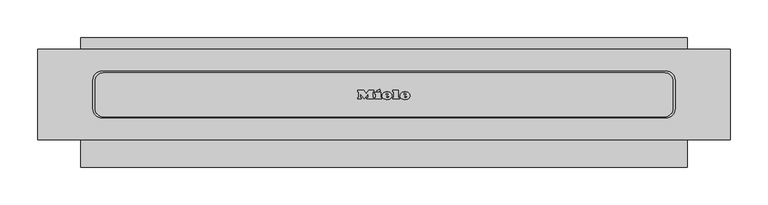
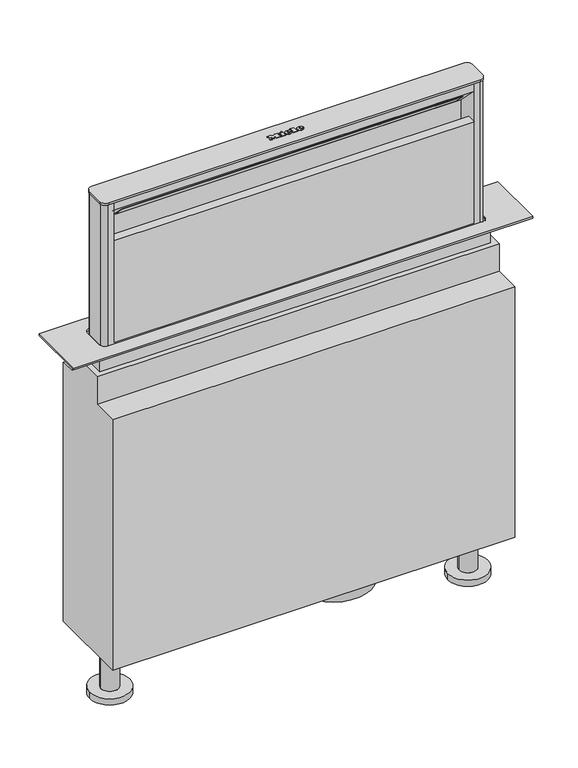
"""IFC4 building model written with IfcOpenShell, lengths in millimetres: proxy geometry, 12440710_CN_DAD4841C_MASW : 28D4841M_CN_12440710_DAD4841C_MASW."""

from ifc_helpers import new_model, si_unit, point, frame, frame_2d, origin, origin_with_axes, place, context, project, spatial, polyline, circle_curve, ellipse_curve, trimmed, segment, composite_curve, outline, extrude, faceted_brep, source, transform, mapped, element, save
from ifc_brep_helpers import plane_surface, cylinder_surface, revolved_surface, extruded_surface, advanced_brep


def specialty_equipment_e5a26d60(model_context):
    return source(origin(), model_context, "Body", "SolidModel", [
        advanced_brep(
        [(26.788, -78.2201445, 305.0), (26.788, -77.0687445, 305.0), (34.4146, -77.0687445, 305.0), (21.145, -77.0687445, 305.0), (24.28, -80.9219445, 305.0), (34.2208, -78.2201445, 305.0), (30.778, -78.2201445, 305.0), (28.0648, -79.4969445, 305.0), (26.788, -75.6095445, 305.0), (26.788, -74.3669445, 305.0), (28.7374, -74.3669445, 305.0), (28.7374, -75.6095445, 305.0), (26.788, -78.2201445, 304.0), (28.0648, -79.4969445, 304.0), (30.778, -78.2201445, 304.0), (34.2208, -78.2201445, 304.0), (24.28, -80.9219445, 304.0), (21.145, -77.0687445, 304.0), (34.4146, -77.0687445, 304.0), (26.788, -77.0687445, 304.0), (26.788, -75.6095445, 304.0), (28.7374, -75.6095445, 304.0), (28.7374, -74.3669445, 304.0), (26.788, -74.3669445, 304.0)],
        [
            (0, 1),
            (1, 2),
            (2, 3, ellipse_curve(frame((27.7798, -77.0687445, 305.0), z_axis=(0.0, 0.0, 1.0), x_axis=(-1.0, 0.0, 0.0)), 6.6348, 5.4834)),
            (3, 4, circle_curve(frame((25.5568622, -76.6811445, 305.0), z_axis=(0.0, 0.0, 1.0), x_axis=(0.0, -1.0, 0.0)), 4.4288556)),
            (4, 5, circle_curve(frame((27.6469808, -73.6715445, 305.0), z_axis=(0.0, 0.0, 1.0), x_axis=(0.0, -1.0, 0.0)), 7.9940516)),
            (5, 6),
            (6, 7, circle_curve(frame((28.6220588, -77.1599445, 305.0), z_axis=(0.0, 0.0, -1.0), x_axis=(0.0, -1.0, 0.0)), 2.4025208)),
            (7, 0, circle_curve(frame((28.0648, -78.2201445, 305.0), z_axis=(0.0, 0.0, -1.0), x_axis=(0.0, -1.0, 0.0)), 1.2768)),
            (8, 9),
            (9, 10, circle_curve(frame((27.7627, -74.3669445, 305.0), z_axis=(0.0, 0.0, -1.0), x_axis=(0.0, -1.0, 0.0)), 0.9747)),
            (10, 11),
            (11, 8),
            (12, 13, circle_curve(frame((28.0648, -78.2201445, 304.0), z_axis=(0.0, 0.0, 1.0), x_axis=(0.0, -1.0, 0.0)), 1.2768)),
            (13, 14, circle_curve(frame((28.6220588, -77.1599445, 304.0), z_axis=(0.0, 0.0, 1.0), x_axis=(0.0, -1.0, 0.0)), 2.4025208)),
            (14, 15),
            (15, 16, circle_curve(frame((27.6469808, -73.6715445, 304.0), z_axis=(0.0, 0.0, -1.0), x_axis=(0.0, -1.0, 0.0)), 7.9940516)),
            (16, 17, circle_curve(frame((25.5568622, -76.6811445, 304.0), z_axis=(0.0, 0.0, -1.0), x_axis=(0.0, -1.0, 0.0)), 4.4288556)),
            (17, 18, ellipse_curve(frame((27.7798, -77.0687445, 304.0), z_axis=(0.0, 0.0, -1.0), x_axis=(-1.0, 0.0, 0.0)), 6.6348, 5.4834)),
            (18, 19),
            (19, 12),
            (20, 21),
            (21, 22),
            (22, 23, circle_curve(frame((27.7627, -74.3669445, 304.0), z_axis=(0.0, 0.0, 1.0), x_axis=(0.0, -1.0, 0.0)), 0.9747)),
            (23, 20),
            (0, 12),
            (19, 1),
            (18, 2),
            (5, 15),
            (14, 6),
            (17, 3),
            (13, 7),
            (16, 4),
            (8, 20),
            (23, 9),
            (22, 10),
            (21, 11),
        ],
        [
            plane_surface(frame((26.788, -77.0687445, 305.0), z_axis=(0.0, 0.0, 1.0), x_axis=(0.0, 1.0, 0.0))),
            plane_surface(frame((26.788, -77.0687445, 304.0), z_axis=(0.0, 0.0, -1.0), x_axis=(0.0, -1.0, 0.0))),
            plane_surface(frame((26.788, -78.2201445, 305.0), z_axis=(1.0, 0.0, 0.0), x_axis=(0.0, 0.0, -1.0))),
            plane_surface(frame((26.788, -77.0687445, 305.0), z_axis=(0.0, -1.0, 0.0), x_axis=(0.0, 0.0, -1.0))),
            plane_surface(frame((34.2208, -78.2201445, 305.0), z_axis=(0.0, 1.0, 0.0), x_axis=(0.0, 0.0, -1.0))),
            extruded_surface(trimmed(ellipse_curve(frame((27.7798, -77.0687445, 303.0), z_axis=(0.0, 0.0, 1.0), x_axis=(-1.0, 0.0, 0.0)), 6.6348, 5.4834), [point((34.4146, -77.0687445, 303.0))], [point((21.145, -77.0687445, 303.0))], True, "CARTESIAN"), (0.0, 0.0, 1.0), 1.0),
            revolved_surface(polyline([(28.6220588, -79.5624653, 304.0), (28.6220588, -79.5624653, 305.0)]), (28.6220588, -77.1599445, 304.0), (0.0, 0.0, -1.0)),
            revolved_surface(polyline([(28.0648, -79.4969445, 304.0), (28.0648, -79.4969445, 305.0)]), (28.0648, -78.2201445, 304.0), (0.0, 0.0, -1.0)),
            cylinder_surface(frame((25.5568622, -76.6811445, 304.0), z_axis=(0.0, 0.0, 1.0), x_axis=(0.0, -1.0, 0.0)), 4.4288556),
            cylinder_surface(frame((27.6469808, -73.6715445, 304.0), z_axis=(0.0, 0.0, 1.0), x_axis=(0.0, -1.0, 0.0)), 7.9940516),
            plane_surface(frame((26.788, -75.6095445, 305.0), z_axis=(1.0, 0.0, 0.0), x_axis=(0.0, 0.0, -1.0))),
            revolved_surface(polyline([(27.7627, -75.3416445, 304.0), (27.7627, -75.3416445, 305.0)]), (27.7627, -74.3669445, 304.0), (0.0, 0.0, -1.0)),
            plane_surface(frame((28.7374, -74.3669445, 305.0), z_axis=(-1.0, 0.0, 0.0), x_axis=(0.0, 0.0, -1.0))),
            plane_surface(frame((28.7374, -75.6095445, 305.0), z_axis=(0.0, 1.0, 0.0), x_axis=(0.0, 0.0, -1.0))),
        ],
        [
            (0, [[1, 2, 3, 4, 5, 6, 7, 8], [9, 10, 11, 12]]),
            (1, [[13, 14, 15, 16, 17, 18, 19, 20], [21, 22, 23, 24]]),
            (2, [[-1, 25, -20, 26]]),
            (3, [[-2, -26, -19, 27]]),
            (4, [[-6, 28, -15, 29]]),
            (5, [[-3, -27, -18, 30]]),
            (6, [[-7, -29, -14, 31]]),
            (7, [[-8, -31, -13, -25]]),
            (8, [[-4, -30, -17, 32]]),
            (9, [[-5, -32, -16, -28]]),
            (10, [[-9, 33, -24, 34]]),
            (11, [[-10, -34, -23, 35]]),
            (12, [[-11, -35, -22, 36]]),
            (13, [[-12, -36, -21, -33]]),
        ],
    ),
        advanced_brep(
        [(2.9962, -78.2201445, 305.0), (2.9962, -77.0687445, 305.0), (10.6228, -77.0687445, 305.0), (-2.6468, -77.0687445, 305.0), (0.4882, -80.9219445, 305.0), (10.429, -78.2201445, 305.0), (6.9862, -78.2201445, 305.0), (4.273, -79.4969445, 305.0), (2.9962, -75.6095445, 305.0), (2.9962, -74.3669445, 305.0), (4.9456, -74.3669445, 305.0), (4.9456, -75.6095445, 305.0), (2.9962, -78.2201445, 304.0), (4.273, -79.4969445, 304.0), (6.9862, -78.2201445, 304.0), (10.429, -78.2201445, 304.0), (0.4882, -80.9219445, 304.0), (-2.6468, -77.0687445, 304.0), (10.6228, -77.0687445, 304.0), (2.9962, -77.0687445, 304.0), (2.9962, -75.6095445, 304.0), (4.9456, -75.6095445, 304.0), (4.9456, -74.3669445, 304.0), (2.9962, -74.3669445, 304.0)],
        [
            (0, 1),
            (1, 2),
            (2, 3, ellipse_curve(frame((3.988, -77.0687445, 305.0), z_axis=(0.0, 0.0, 1.0), x_axis=(-1.0, 0.0, 0.0)), 6.6348, 5.4834)),
            (3, 4, circle_curve(frame((1.7650622, -76.6811445, 305.0), z_axis=(0.0, 0.0, 1.0), x_axis=(0.0, -1.0, 0.0)), 4.4288556)),
            (4, 5, circle_curve(frame((3.8551808, -73.6715445, 305.0), z_axis=(0.0, 0.0, 1.0), x_axis=(0.0, -1.0, 0.0)), 7.9940516)),
            (5, 6),
            (6, 7, circle_curve(frame((4.8302588, -77.1599445, 305.0), z_axis=(0.0, 0.0, -1.0), x_axis=(0.0, -1.0, 0.0)), 2.4025208)),
            (7, 0, circle_curve(frame((4.273, -78.2201445, 305.0), z_axis=(0.0, 0.0, -1.0), x_axis=(0.0, -1.0, 0.0)), 1.2768)),
            (8, 9),
            (9, 10, circle_curve(frame((3.9709, -74.3669445, 305.0), z_axis=(0.0, 0.0, -1.0), x_axis=(0.0, -1.0, 0.0)), 0.9747)),
            (10, 11),
            (11, 8),
            (12, 13, circle_curve(frame((4.273, -78.2201445, 304.0), z_axis=(0.0, 0.0, 1.0), x_axis=(0.0, -1.0, 0.0)), 1.2768)),
            (13, 14, circle_curve(frame((4.8302588, -77.1599445, 304.0), z_axis=(0.0, 0.0, 1.0), x_axis=(0.0, -1.0, 0.0)), 2.4025208)),
            (14, 15),
            (15, 16, circle_curve(frame((3.8551808, -73.6715445, 304.0), z_axis=(0.0, 0.0, -1.0), x_axis=(0.0, -1.0, 0.0)), 7.9940516)),
            (16, 17, circle_curve(frame((1.7650622, -76.6811445, 304.0), z_axis=(0.0, 0.0, -1.0), x_axis=(0.0, -1.0, 0.0)), 4.4288556)),
            (17, 18, ellipse_curve(frame((3.988, -77.0687445, 304.0), z_axis=(0.0, 0.0, -1.0), x_axis=(-1.0, 0.0, 0.0)), 6.6348, 5.4834)),
            (18, 19),
            (19, 12),
            (20, 21),
            (21, 22),
            (22, 23, circle_curve(frame((3.9709, -74.3669445, 304.0), z_axis=(0.0, 0.0, 1.0), x_axis=(0.0, -1.0, 0.0)), 0.9747)),
            (23, 20),
            (0, 12),
            (19, 1),
            (18, 2),
            (5, 15),
            (14, 6),
            (17, 3),
            (13, 7),
            (16, 4),
            (8, 20),
            (23, 9),
            (22, 10),
            (21, 11),
        ],
        [
            plane_surface(frame((2.9962, -77.0687445, 305.0), z_axis=(0.0, 0.0, 1.0), x_axis=(0.0, 1.0, 0.0))),
            plane_surface(frame((2.9962, -77.0687445, 304.0), z_axis=(0.0, 0.0, -1.0), x_axis=(0.0, -1.0, 0.0))),
            plane_surface(frame((2.9962, -78.2201445, 305.0), z_axis=(1.0, 0.0, 0.0), x_axis=(0.0, 0.0, -1.0))),
            plane_surface(frame((2.9962, -77.0687445, 305.0), z_axis=(0.0, -1.0, 0.0), x_axis=(0.0, 0.0, -1.0))),
            plane_surface(frame((10.429, -78.2201445, 305.0), z_axis=(0.0, 1.0, 0.0), x_axis=(0.0, 0.0, -1.0))),
            extruded_surface(trimmed(ellipse_curve(frame((3.988, -77.0687445, 303.0), z_axis=(0.0, 0.0, 1.0), x_axis=(-1.0, 0.0, 0.0)), 6.6348, 5.4834), [point((10.6228, -77.0687445, 303.0))], [point((-2.6468, -77.0687445, 303.0))], True, "CARTESIAN"), (0.0, 0.0, 1.0), 1.0),
            revolved_surface(polyline([(4.8302588, -79.5624653, 304.0), (4.8302588, -79.5624653, 305.0)]), (4.8302588, -77.1599445, 304.0), (0.0, 0.0, -1.0)),
            revolved_surface(polyline([(4.273, -79.4969445, 304.0), (4.273, -79.4969445, 305.0)]), (4.273, -78.2201445, 304.0), (0.0, 0.0, -1.0)),
            cylinder_surface(frame((1.7650622, -76.6811445, 304.0), z_axis=(0.0, 0.0, 1.0), x_axis=(0.0, -1.0, 0.0)), 4.4288556),
            cylinder_surface(frame((3.8551808, -73.6715445, 304.0), z_axis=(0.0, 0.0, 1.0), x_axis=(0.0, -1.0, 0.0)), 7.9940516),
            plane_surface(frame((2.9962, -75.6095445, 305.0), z_axis=(1.0, 0.0, 0.0), x_axis=(0.0, 0.0, -1.0))),
            revolved_surface(polyline([(3.9709, -75.3416445, 304.0), (3.9709, -75.3416445, 305.0)]), (3.9709, -74.3669445, 304.0), (0.0, 0.0, -1.0)),
            plane_surface(frame((4.9456, -74.3669445, 305.0), z_axis=(-1.0, 0.0, 0.0), x_axis=(0.0, 0.0, -1.0))),
            plane_surface(frame((4.9456, -75.6095445, 305.0), z_axis=(0.0, 1.0, 0.0), x_axis=(0.0, 0.0, -1.0))),
        ],
        [
            (0, [[1, 2, 3, 4, 5, 6, 7, 8], [9, 10, 11, 12]]),
            (1, [[13, 14, 15, 16, 17, 18, 19, 20], [21, 22, 23, 24]]),
            (2, [[-1, 25, -20, 26]]),
            (3, [[-2, -26, -19, 27]]),
            (4, [[-6, 28, -15, 29]]),
            (5, [[-3, -27, -18, 30]]),
            (6, [[-7, -29, -14, 31]]),
            (7, [[-8, -31, -13, -25]]),
            (8, [[-4, -30, -17, 32]]),
            (9, [[-5, -32, -16, -28]]),
            (10, [[-9, 33, -24, 34]]),
            (11, [[-10, -34, -23, 35]]),
            (12, [[-11, -35, -22, 36]]),
            (13, [[-12, -36, -21, -33]]),
        ],
    ),
        extrude(outline(polyline([(-9.464, -70.1945445), (-5.588, -68.3933445), (-4.733, -70.2401445), (-8.5976, -72.0413445), (-9.464, -70.1945445)])), frame((0.0, 0.0, 304.0), z_axis=(0.0, 0.0, 1.0), x_axis=(1.0, 0.0, 0.0)), (0.0, 0.0, 1.0), 1.0),
        extrude(outline(polyline([(-12.2798, -72.2921445), (-4.6076, -72.2921445), (-4.6076, -79.0067445), (-3.2852, -79.0067445), (-3.2852, -80.9219445), (-12.2798, -80.9219445), (-12.2798, -79.0067445), (-10.9232, -79.0067445), (-10.9232, -74.3327445), (-12.2798, -74.3327445), (-12.2798, -72.2921445)])), frame((0.0, 0.0, 304.0), z_axis=(0.0, 0.0, 1.0), x_axis=(1.0, 0.0, 0.0)), (0.0, 0.0, 1.0), 1.0),
        extrude(outline(polyline([(11.2612, -71.3801445), (11.2612, -69.5219445), (19.1044, -69.5219445), (19.1044, -79.0067445), (20.5066, -79.0067445), (20.5066, -80.9219445), (11.2612, -80.9219445), (11.2612, -79.0067445), (12.6292, -79.0067445), (12.6292, -71.3801445), (11.2612, -71.3801445)])), frame((0.0, 0.0, 304.0), z_axis=(0.0, 0.0, 1.0), x_axis=(1.0, 0.0, 0.0)), (0.0, 0.0, 1.0), 1.0),
        extrude(outline(polyline([(-35.0, -71.3801445), (-35.0, -69.5219445), (-27.0542, -69.5219445), (-23.714, -73.7969445), (-20.3852, -69.5219445), (-13.4426, -69.5219445), (-13.4426, -71.3801445), (-14.8904, -71.3801445), (-14.8904, -79.0067445), (-13.4426, -79.0067445), (-13.4426, -80.9219445), (-22.5398, -80.9219445), (-22.5398, -79.0067445), (-21.1376, -79.0067445), (-21.1376, -73.9817222), (-26.2562, -80.9219445), (-31.352, -74.1790197), (-31.352, -79.0067445), (-29.984, -79.0067445), (-29.984, -80.9219445), (-35.0, -80.9219445), (-35.0, -79.0067445), (-33.6206, -79.0067445), (-33.6206, -71.3801445), (-35.0, -71.3801445)])), frame((0.0, 0.0, 304.0), z_axis=(0.0, 0.0, 1.0), x_axis=(1.0, 0.0, 0.0)), (0.0, 0.0, 1.0), 1.0),
        advanced_brep(
        [(371.2042121, -47.3780783, 299.5725648), (-371.2042121, -47.3780783, 299.5725648), (-381.2042121, -57.3780783, 299.5725648), (-381.2042121, -93.3780783, 299.5725648), (-371.2042121, -103.3780783, 299.5725648), (-359.9100986, -103.3780783, 299.5725648), (-359.9100986, -103.1609893, 299.5725648), (359.9100986, -103.1609893, 299.5725648), (359.9100986, -103.3780783, 299.5725648), (371.2042121, -103.3780783, 299.5725648), (381.2042121, -93.3780783, 299.5725648), (381.2042121, -57.3780783, 299.5725648), (371.2042121, -47.3780783, 0.0), (381.2042121, -57.3780783, 0.0), (381.2042121, -93.3780783, 0.0), (371.2042121, -103.3780783, 0.0), (-371.2042121, -103.3780783, 0.0), (-381.2042121, -93.3780783, 0.0), (-381.2042121, -57.3780783, 0.0), (-371.2042121, -47.3780783, 0.0), (359.9100986, -103.3780783, 4.0), (-359.9100986, -103.3780783, 4.0), (359.9100986, -58.0, 237.9815659), (359.9100986, -58.0, 147.0), (359.9100986, -79.1055209, 147.0), (359.9100986, -85.0, 219.0), (359.9100986, -103.1609893, 219.0), (359.9100986, -103.1609893, 4.0), (359.9100986, -103.1609893, 283.1425552), (-359.9100986, -85.0, 219.0), (-359.9100986, -79.1055209, 147.0), (-359.9100986, -58.0, 147.0), (-359.9100986, -58.0, 237.9815659), (-359.9100986, -103.1609893, 283.1425552), (-359.9100986, -103.1609893, 4.0), (-359.9100986, -103.1609893, 219.0)],
        [
            (0, 1),
            (1, 2, circle_curve(frame((-371.2042121, -57.3780783, 299.5725648), z_axis=(0.0, 0.0, 1.0), x_axis=(1.0, 0.0, 0.0)), 10.0)),
            (2, 3),
            (3, 4, circle_curve(frame((-371.2042121, -93.3780783, 299.5725648), z_axis=(0.0, 0.0, 1.0), x_axis=(1.0, 0.0, 0.0)), 10.0)),
            (4, 5),
            (5, 6),
            (6, 7),
            (7, 8),
            (8, 9),
            (9, 10, circle_curve(frame((371.2042121, -93.3780783, 299.5725648), z_axis=(0.0, 0.0, 1.0), x_axis=(1.0, 0.0, 0.0)), 10.0)),
            (10, 11),
            (11, 0, circle_curve(frame((371.2042121, -57.3780783, 299.5725648), z_axis=(0.0, 0.0, 1.0), x_axis=(1.0, 0.0, 0.0)), 10.0)),
            (12, 13, circle_curve(frame((371.2042121, -57.3780783, 0.0), z_axis=(0.0, 0.0, -1.0), x_axis=(1.0, 0.0, 0.0)), 10.0)),
            (13, 14),
            (14, 15, circle_curve(frame((371.2042121, -93.3780783, 0.0), z_axis=(0.0, 0.0, -1.0), x_axis=(1.0, 0.0, 0.0)), 10.0)),
            (15, 16),
            (16, 17, circle_curve(frame((-371.2042121, -93.3780783, 0.0), z_axis=(0.0, 0.0, -1.0), x_axis=(1.0, 0.0, 0.0)), 10.0)),
            (17, 18),
            (18, 19, circle_curve(frame((-371.2042121, -57.3780783, 0.0), z_axis=(0.0, 0.0, -1.0), x_axis=(1.0, 0.0, 0.0)), 10.0)),
            (19, 12),
            (0, 12),
            (19, 1),
            (2, 18),
            (17, 3),
            (15, 9),
            (8, 20),
            (20, 21),
            (21, 5),
            (4, 16),
            (10, 14),
            (13, 11),
            (22, 23),
            (23, 24),
            (24, 25),
            (25, 26),
            (26, 27),
            (27, 20),
            (7, 28),
            (28, 22),
            (29, 30),
            (30, 31),
            (31, 32),
            (32, 33),
            (33, 6),
            (21, 34),
            (34, 35),
            (35, 29),
            (32, 22),
            (28, 33),
            (25, 29),
            (35, 26),
            (24, 30),
            (23, 31),
            (34, 27),
        ],
        [
            plane_surface(frame((-371.2042121, -47.3780783, 299.5725648), z_axis=(0.0, 0.0, 1.0), x_axis=(-1.0, 0.0, 0.0))),
            plane_surface(frame((-371.2042121, -47.3780783, 0.0), z_axis=(0.0, 0.0, -1.0), x_axis=(1.0, 0.0, 0.0))),
            plane_surface(frame((371.2042121, -47.3780783, 299.5725648), z_axis=(0.0, 1.0, 0.0), x_axis=(0.0, 0.0, -1.0))),
            plane_surface(frame((-381.2042121, -57.3780783, 299.5725648), z_axis=(-1.0, 0.0, 0.0), x_axis=(0.0, 0.0, -1.0))),
            plane_surface(frame((-371.2042121, -103.3780783, 299.5725648), z_axis=(0.0, -1.0, 0.0), x_axis=(0.0, 0.0, -1.0))),
            plane_surface(frame((381.2042121, -93.3780783, 299.5725648), z_axis=(1.0, 0.0, 0.0), x_axis=(0.0, 0.0, -1.0))),
            cylinder_surface(frame((-371.2042121, -57.3780783, 0.0), z_axis=(0.0, 0.0, 1.0), x_axis=(1.0, 0.0, 0.0)), 10.0),
            cylinder_surface(frame((-371.2042121, -93.3780783, 0.0), z_axis=(0.0, 0.0, 1.0), x_axis=(1.0, 0.0, 0.0)), 10.0),
            cylinder_surface(frame((371.2042121, -93.3780783, 0.0), z_axis=(0.0, 0.0, 1.0), x_axis=(1.0, 0.0, 0.0)), 10.0),
            cylinder_surface(frame((371.2042121, -57.3780783, 0.0), z_axis=(0.0, 0.0, 1.0), x_axis=(1.0, 0.0, 0.0)), 10.0),
            plane_surface(frame((359.9100986, -94.4708552, 274.4524211), z_axis=(-1.0, 0.0, 0.0), x_axis=(0.0, -0.7071067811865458, 0.7071067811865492))),
            plane_surface(frame((-359.9100986, -94.4708552, 274.4524211), z_axis=(1.0, 0.0, 0.0), x_axis=(0.0, 0.7071067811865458, -0.7071067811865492))),
            plane_surface(frame((359.9100986, -58.0, 237.9815659), z_axis=(0.0, -0.7071067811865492, -0.7071067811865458), x_axis=(-1.0, 0.0, 0.0))),
            plane_surface(frame((359.9100986, -103.3780783, 219.0), z_axis=(0.0, 0.0, 1.0), x_axis=(-1.0, 0.0, 0.0))),
            plane_surface(frame((359.9100986, -85.0, 219.0), z_axis=(0.0, 0.9966655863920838, 0.08159478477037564), x_axis=(-1.0, 0.0, 0.0))),
            plane_surface(frame((359.9100986, -79.1055209, 147.0), z_axis=(0.0, 0.0, 1.0), x_axis=(-1.0, 0.0, 0.0))),
            plane_surface(frame((359.9100986, -58.0, 147.0), z_axis=(0.0, -1.0, 0.0), x_axis=(-1.0, 0.0, 0.0))),
            plane_surface(frame((268.1830979, -103.1609893, 4.0), z_axis=(0.0, -1.0, 0.0), x_axis=(-1.0, 0.0, 0.0))),
            plane_surface(frame((-359.9100986, -103.3780783, 4.0), z_axis=(0.0, 0.0, 1.0), x_axis=(0.0, 1.0, 0.0))),
        ],
        [
            (0, [[1, 2, 3, 4, 5, 6, 7, 8, 9, 10, 11, 12]]),
            (1, [[13, 14, 15, 16, 17, 18, 19, 20]]),
            (2, [[-1, 21, -20, 22]]),
            (3, [[-3, 23, -18, 24]]),
            (4, [[-16, 25, -9, 26, 27, 28, -5, 29]]),
            (5, [[-11, 30, -14, 31]]),
            (6, [[-2, -22, -19, -23]]),
            (7, [[-4, -24, -17, -29]]),
            (8, [[-10, -25, -15, -30]]),
            (9, [[-12, -31, -13, -21]]),
            (10, [[32, 33, 34, 35, 36, 37, -26, -8, 38, 39]]),
            (11, [[40, 41, 42, 43, 44, -6, -28, 45, 46, 47]]),
            (12, [[48, -39, 49, -43]]),
            (13, [[50, -47, 51, -35]]),
            (14, [[-34, 52, -40, -50]]),
            (15, [[-33, 53, -41, -52]]),
            (16, [[-32, -48, -42, -53]]),
            (17, [[-38, -7, -44, -49]]),
            (17, [[54, -36, -51, -46]]),
            (18, [[-54, -45, -27, -37]]),
        ],
    ),
        extrude(outline(composite_curve([segment(trimmed(circle_curve(frame_2d((371.1814118, -57.4008786)), 11.0228003), [point((371.1814118, -46.3780783))], [point((382.2042121, -57.4008786))], False, "CARTESIAN"), True, "CONTINUOUS"), segment(polyline([(382.2042121, -57.4008786), (382.2042121, -93.3997352)]), True, "CONTINUOUS"), segment(trimmed(circle_curve(frame_2d((371.225869, -93.3997352)), 10.9783431), [point((382.2042121, -93.3997352))], [point((371.225869, -104.3780783))], False, "CARTESIAN"), True, "CONTINUOUS"), segment(polyline([(371.225869, -104.3780783), (-371.2377642, -104.3780783)]), True, "CONTINUOUS"), segment(trimmed(circle_curve(frame_2d((-371.2377642, -93.4116304)), 10.9664479), [point((-371.2377642, -104.3780783))], [point((-382.2042121, -93.4116304))], False, "CARTESIAN"), True, "CONTINUOUS"), segment(polyline([(-382.2042121, -93.4116304), (-382.2042121, -57.3636674)]), True, "CONTINUOUS"), segment(trimmed(circle_curve(frame_2d((-371.218623, -57.3636674)), 10.9855891), [point((-382.2042121, -57.3636674))], [point((-371.218623, -46.3780783))], False, "CARTESIAN"), True, "CONTINUOUS"), segment(polyline([(-371.218623, -46.3780783), (371.1814118, -46.3780783)]), True, "CONTINUOUS")], self_intersect=False)), frame((0.0, 0.0, 299.5725648), z_axis=(0.0, 0.0, 1.0), x_axis=(1.0, 0.0, 0.0)), (0.0, 0.0, 1.0), 4.4274352),
        extrude(outline(composite_curve([segment(trimmed(circle_curve(frame_2d((89.2, -85.8647958)), 75.0), [point((14.2, -85.8647958))], [point((164.2, -85.8647958))], False, "CARTESIAN"), True, "CONTINUOUS"), segment(trimmed(circle_curve(frame_2d((89.2, -85.8647958)), 75.0), [point((164.2, -85.8647958))], [point((14.2, -85.8647958))], False, "CARTESIAN"), True, "CONTINUOUS")], self_intersect=False)), frame((0.0, 0.0, -659.0), z_axis=(0.0, 0.0, 1.0), x_axis=(1.0, 0.0, 0.0)), (0.0, 0.0, 1.0), 27.0),
        extrude(outline(polyline([(131.9356251, -102.8966751), (125.3014865, -102.8966751), (119.5625273, -87.2003766), (98.8752965, -87.2003766), (93.1240746, -102.8966751), (86.489936, -102.8966751), (106.5395047, -52.66852), (111.8860564, -52.66852), (131.9356251, -102.8966751)]), holes=[polyline([(117.2571335, -80.9218572), (112.3397775, -67.4941644), (109.2127805, -58.9470394), (105.6933761, -68.5732849), (101.1684276, -80.9218572), (117.2571335, -80.9218572)])]), frame((0.0, 0.0, -664.0), z_axis=(0.0, 0.0, 1.0), x_axis=(1.0, 0.0, 0.0)), (0.0, 0.0, 1.0), 5.0),
        extrude(outline(polyline([(79.7822209, -102.8966751), (48.389624, -102.8966751), (48.389624, -96.6181557), (73.5037015, -96.6181557), (73.5037015, -52.66852), (79.7822209, -52.66852), (79.7822209, -102.8966751)])), frame((0.0, 0.0, -664.0), z_axis=(0.0, 0.0, 1.0), x_axis=(1.0, 0.0, 0.0)), (0.0, 0.0, 1.0), 5.0),
        advanced_brep(
        [(317.7840925, -85.0, -744.9499512), (397.7840925, -85.0, -744.9499512), (317.7840925, -85.0, -731.9499512), (397.7840925, -85.0, -731.9499512), (375.2840925, -85.0, -731.9499512), (340.2840925, -85.0, -731.9499512), (340.2840925, -85.0, -632.0), (375.2840925, -85.0, -632.0)],
        [
            (0, 1, circle_curve(frame((357.7840925, -85.0, -744.9499512), z_axis=(0.0, 0.0, -1.0), x_axis=(1.0, 0.0, 0.0)), 40.0)),
            (1, 0, circle_curve(frame((357.7840925, -85.0, -744.9499512), z_axis=(0.0, 0.0, -1.0), x_axis=(1.0, 0.0, 0.0)), 40.0)),
            (2, 3, circle_curve(frame((357.7840925, -85.0, -731.9499512), z_axis=(0.0, 0.0, 1.0), x_axis=(1.0, 0.0, 0.0)), 40.0)),
            (3, 2, circle_curve(frame((357.7840925, -85.0, -731.9499512), z_axis=(0.0, 0.0, 1.0), x_axis=(1.0, 0.0, 0.0)), 40.0)),
            (4, 5, circle_curve(frame((357.7840925, -85.0, -731.9499512), z_axis=(0.0, 0.0, -1.0), x_axis=(1.0, 0.0, 0.0)), 17.5)),
            (5, 4, circle_curve(frame((357.7840925, -85.0, -731.9499512), z_axis=(0.0, 0.0, -1.0), x_axis=(1.0, 0.0, 0.0)), 17.5)),
            (1, 3),
            (2, 0),
            (6, 7, circle_curve(frame((357.7840925, -85.0, -632.0), z_axis=(0.0, 0.0, 1.0), x_axis=(1.0, 0.0, 0.0)), 17.5)),
            (7, 6, circle_curve(frame((357.7840925, -85.0, -632.0), z_axis=(0.0, 0.0, 1.0), x_axis=(1.0, 0.0, 0.0)), 17.5)),
            (6, 5),
            (4, 7),
        ],
        [
            plane_surface(frame((397.7840925, -85.0, -744.9499512), z_axis=(0.0, 0.0, -1.0), x_axis=(0.0, -1.0, 0.0))),
            plane_surface(frame((397.7840925, -85.0, -731.9499512), z_axis=(0.0, 0.0, 1.0), x_axis=(0.0, 1.0, 0.0))),
            cylinder_surface(frame((357.7840925, -85.0, -744.9499512), z_axis=(0.0, 0.0, 1.0), x_axis=(1.0, 0.0, 0.0)), 40.0),
            plane_surface(frame((375.2840925, -85.0, -632.0), z_axis=(0.0, 0.0, 1.0), x_axis=(0.0, 1.0, 0.0))),
            cylinder_surface(frame((357.7840925, -85.0, -744.9499512), z_axis=(0.0, 0.0, 1.0), x_axis=(1.0, 0.0, 0.0)), 17.5),
        ],
        [
            (0, [[1, 2]]),
            (1, [[3, 4], [5, 6]]),
            (2, [[-2, 7, -3, 8]]),
            (2, [[-1, -8, -4, -7]]),
            (3, [[9, 10]]),
            (4, [[-9, 11, -5, 12]]),
            (4, [[-10, -12, -6, -11]]),
        ],
    ),
        advanced_brep(
        [(-397.7840925, -85.0, -744.9499512), (-317.7840925, -85.0, -744.9499512), (-397.7840925, -85.0, -731.9499512), (-317.7840925, -85.0, -731.9499512), (-340.2840925, -85.0, -731.9499512), (-375.2840925, -85.0, -731.9499512), (-375.2840925, -85.0, -632.0), (-340.2840925, -85.0, -632.0)],
        [
            (0, 1, circle_curve(frame((-357.7840925, -85.0, -744.9499512), z_axis=(0.0, 0.0, -1.0), x_axis=(1.0, 0.0, 0.0)), 40.0)),
            (1, 0, circle_curve(frame((-357.7840925, -85.0, -744.9499512), z_axis=(0.0, 0.0, -1.0), x_axis=(1.0, 0.0, 0.0)), 40.0)),
            (2, 3, circle_curve(frame((-357.7840925, -85.0, -731.9499512), z_axis=(0.0, 0.0, 1.0), x_axis=(1.0, 0.0, 0.0)), 40.0)),
            (3, 2, circle_curve(frame((-357.7840925, -85.0, -731.9499512), z_axis=(0.0, 0.0, 1.0), x_axis=(1.0, 0.0, 0.0)), 40.0)),
            (4, 5, circle_curve(frame((-357.7840925, -85.0, -731.9499512), z_axis=(0.0, 0.0, -1.0), x_axis=(1.0, 0.0, 0.0)), 17.5)),
            (5, 4, circle_curve(frame((-357.7840925, -85.0, -731.9499512), z_axis=(0.0, 0.0, -1.0), x_axis=(1.0, 0.0, 0.0)), 17.5)),
            (1, 3),
            (2, 0),
            (6, 7, circle_curve(frame((-357.7840925, -85.0, -632.0), z_axis=(0.0, 0.0, 1.0), x_axis=(1.0, 0.0, 0.0)), 17.5)),
            (7, 6, circle_curve(frame((-357.7840925, -85.0, -632.0), z_axis=(0.0, 0.0, 1.0), x_axis=(1.0, 0.0, 0.0)), 17.5)),
            (6, 5),
            (4, 7),
        ],
        [
            plane_surface(frame((397.7840925, -85.0, -744.9499512), z_axis=(0.0, 0.0, -1.0), x_axis=(0.0, -1.0, 0.0))),
            plane_surface(frame((397.7840925, -85.0, -731.9499512), z_axis=(0.0, 0.0, 1.0), x_axis=(0.0, 1.0, 0.0))),
            cylinder_surface(frame((-357.7840925, -85.0, 0.0), z_axis=(0.0, 0.0, 1.0), x_axis=(1.0, 0.0, 0.0)), 40.0),
            plane_surface(frame((375.2840925, -85.0, -632.0), z_axis=(0.0, 0.0, 1.0), x_axis=(0.0, 1.0, 0.0))),
            cylinder_surface(frame((-357.7840925, -85.0, 0.0), z_axis=(0.0, 0.0, 1.0), x_axis=(1.0, 0.0, 0.0)), 17.5),
        ],
        [
            (0, [[1, 2]]),
            (1, [[3, 4], [5, 6]]),
            (2, [[-2, 7, -3, 8]]),
            (2, [[-1, -8, -4, -7]]),
            (3, [[9, 10]]),
            (4, [[-9, 11, -5, 12]]),
            (4, [[-10, -12, -6, -11]]),
        ],
    ),
        extrude(outline(polyline([(36.0, 0.0), (36.0, -680.0), (0.0, -680.0), (0.0, 0.0), (36.0, 0.0)])), frame((-337.8937642, -94.5300953, 272.3903409), z_axis=(0.0, 0.7071067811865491, 0.707106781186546), x_axis=(0.0, 0.707106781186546, -0.7071067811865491)), (0.0, 0.0, 1.0), 1.5),
        extrude(outline(polyline([(458.0, -15.0), (458.0, -135.0), (-458.0, -135.0), (-458.0, -15.0), (458.0, -15.0)]), holes=[composite_curve([segment(polyline([(373.1343386, -44.0), (-373.0956327, -44.0)]), True, "CONTINUOUS"), segment(trimmed(circle_curve(frame_2d((-373.0956327, -56.0)), 12.0), [point((-373.0956327, -44.0))], [point((-385.0956327, -56.0))], True, "CARTESIAN"), True, "CONTINUOUS"), segment(polyline([(-385.0956327, -56.0), (-385.0956327, -94.0)]), True, "CONTINUOUS"), segment(trimmed(circle_curve(frame_2d((-373.0956327, -94.0)), 12.0), [point((-385.0956327, -94.0))], [point((-373.0956327, -106.0))], True, "CARTESIAN"), True, "CONTINUOUS"), segment(polyline([(-373.0956327, -106.0), (373.0753112, -106.0)]), True, "CONTINUOUS"), segment(trimmed(circle_curve(frame_2d((373.0753112, -93.9796784)), 12.0203216), [point((373.0753112, -106.0))], [point((385.0956327, -93.9796784))], True, "CARTESIAN"), True, "CONTINUOUS"), segment(polyline([(385.0956327, -93.9796784), (385.0956327, -55.9612941)]), True, "CONTINUOUS"), segment(trimmed(circle_curve(frame_2d((373.1343386, -55.9612941)), 11.9612941), [point((385.0956327, -55.9612941))], [point((373.1343386, -44.0))], True, "CARTESIAN"), True, "CONTINUOUS")], self_intersect=False)]), origin_with_axes(), (0.0, 0.0, 1.0), 4.0),
        faceted_brep([(401.4936189, -32.3, -45.0), (-401.4936189, -32.3, -45.0), (-401.4936189, -117.7, -45.0), (401.4936189, -117.7, -45.0), (-390.0, -43.0, -45.0), (390.0, -43.0, -45.0), (390.0, -107.0, -45.0), (-390.0, -107.0, -45.0), (401.4936189, 0.0, -632.0), (401.4936189, -171.0, -632.0), (-401.4936189, -171.0, -632.0), (-401.4936189, 0.0, -632.0), (-401.4936189, 0.0, -85.0), (401.4936189, 0.0, -85.0), (401.4936189, -171.0, -103.0), (-401.4936189, -171.0, -103.0), (390.0, -43.0, 0.0), (-390.0, -43.0, 0.0), (-390.0, -107.0, 0.0), (390.0, -107.0, 0.0), (-401.4936189, -117.7, -103.0), (-401.4936189, -32.3, -85.0), (401.4936189, -32.3, -85.0), (401.4936189, -117.7, -103.0)], [[[0, 1, 2, 3], [4, 5, 6, 7]], [[8, 9, 10, 11]], [[8, 11, 12, 13]], [[10, 9, 14, 15]], [[16, 17, 18, 19]], [[17, 16, 5, 4]], [[18, 17, 4, 7]], [[19, 18, 7, 6]], [[16, 19, 6, 5]], [[11, 10, 15, 20, 2, 1, 21, 12]], [[9, 8, 13, 22, 0, 3, 23, 14]], [[23, 20, 15, 14]], [[20, 23, 3, 2]], [[22, 21, 1, 0]], [[21, 22, 13, 12]]]),
        extrude(outline(polyline([(-226.6227397, -22.8890246), (-234.0, -22.8890246), (-234.0, -21.6333207), (-227.8784436, -21.6333207), (-227.8784436, -18.337098), (-233.529111, -18.337098), (-233.529111, -17.0813942), (-227.8784436, -17.0813942), (-227.8784436, -14.0990974), (-233.843037, -14.0990974), (-233.843037, -12.8433936), (-226.6227397, -12.8433936), (-226.6227397, -22.8890246)])), frame((0.0, 0.0, -647.6593305), z_axis=(0.0, 0.0, 1.0), x_axis=(1.0, 0.0, 0.0)), (0.0, 0.0, 1.0), 1.0),
        extrude(outline(polyline([(-235.8835558, -22.8890246), (-242.1620752, -22.8890246), (-242.1620752, -21.6333207), (-237.1392597, -21.6333207), (-237.1392597, -12.8433936), (-235.8835558, -12.8433936), (-235.8835558, -22.8890246)])), frame((0.0, 0.0, -647.6593305), z_axis=(0.0, 0.0, 1.0), x_axis=(1.0, 0.0, 0.0)), (0.0, 0.0, 1.0), 1.0),
        extrude(outline(composite_curve([segment(trimmed(circle_curve(frame_2d((-234.0, -18.0)), 7.5), [point((-241.5, -18.0))], [point((-226.5, -18.0))], False, "CARTESIAN"), True, "CONTINUOUS"), segment(trimmed(circle_curve(frame_2d((-234.0, -18.0)), 7.5), [point((-226.5, -18.0))], [point((-241.5, -18.0))], False, "CARTESIAN"), True, "CONTINUOUS")], self_intersect=False)), frame((0.0, 0.0, -646.6593305), z_axis=(0.0, 0.0, 1.0), x_axis=(1.0, 0.0, 0.0)), (0.0, 0.0, 1.0), 14.6593305),
    ])


if __name__ == "__main__":
    model = new_model("IFC4")
    model_context = context("Model", 3, world=origin())
    ifc_project = project(units=[si_unit("LENGTHUNIT", "METRE", prefix="MILLI")], contexts=[model_context])
    site = spatial("IfcSite", under=ifc_project)
    building = spatial("IfcBuilding", under=site)
    placement = place(None, origin())
    specialty_equipment_shape = specialty_equipment_e5a26d60(model_context)
    element("IfcBuildingElementProxy", 1, Name="12440710_CN_DAD4841C_MASW : 28D4841M_CN_12440710_DAD4841C_MASW", ObjectType="12440710_CN_DAD4841C_MASW : 28D4841M_CN_12440710_DAD4841C_MASW", at=placement, inside=building, context=model_context, shape_type="MappedRepresentation", body=[
        mapped(specialty_equipment_shape, transform((0.0, 0.0, 0.0), x_axis=(1.0, 0.0, 0.0), y_axis=(0.0, 1.0, 0.0), z_axis=(0.0, 0.0, 1.0))),
    ])
    save(model, "model.ifc")
